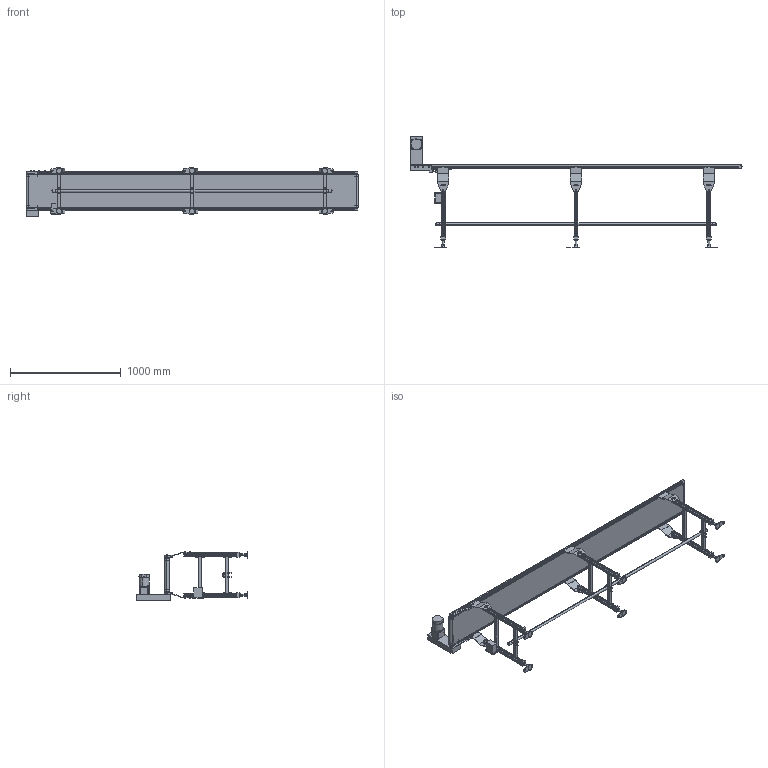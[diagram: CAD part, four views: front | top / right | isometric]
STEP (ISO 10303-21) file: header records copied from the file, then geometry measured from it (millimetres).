
FILE_DESCRIPTION( (''), '2;1');
FILE_NAME ('MB20-OD-306-300-300-R-K-100-O.stp','2025-01-29T15:42:43',(''),(''),'spGate 20.6.2 (****-****-****-****)','','');
FILE_SCHEMA (('AUTOMOTIVE_DESIGN'));
Length unit declared in the file: millimetre
Products named in the file (53): NewModel; TEMP_X_T-prt0; TEMP_X_T-prt1; TEMP_X_T-prt2; TEMP_X_T-prt3; TEMP_X_T-prt4; TEMP_X_T-prt5; TEMP_X_T-prt6; TEMP_X_T-prt7; TEMP_X_T-prt8; TEMP_X_T-prt9; TEMP_X_T-prt10; TEMP_X_T-prt11; TEMP_X_T-prt12; TEMP_X_T-prt13; TEMP_X_T-prt14; TEMP_X_T-prt15; TEMP_X_T-prt16; TEMP_X_T-prt17; TEMP_X_T-prt18; TEMP_X_T-prt19; TEMP_X_T-prt20; TEMP_X_T-prt21; TEMP_X_T-prt22; TEMP_X_T-prt23; TEMP_X_T-prt24; TEMP_X_T-prt25; TEMP_X_T-prt26; TEMP_X_T-prt27; TEMP_X_T-prt28; TEMP_X_T-prt29; TEMP_X_T-prt30; TEMP_X_T-prt31; TEMP_X_T-prt32; TEMP_X_T-prt33; TEMP_X_T-prt34; TEMP_X_T-prt35; TEMP_X_T-prt36; TEMP_X_T-prt37; TEMP_X_T-prt38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
Assembly tree (52 placements, depth 2):
  NewModel
    TEMP_X_T-prt0
    TEMP_X_T-prt1
    TEMP_X_T-prt2
    TEMP_X_T-prt3
    TEMP_X_T-prt4
    TEMP_X_T-prt5
    TEMP_X_T-prt6
    TEMP_X_T-prt7
    TEMP_X_T-prt8
    TEMP_X_T-prt9
    TEMP_X_T-prt10
    TEMP_X_T-prt11
    TEMP_X_T-prt12
    TEMP_X_T-prt13
    TEMP_X_T-prt14
    TEMP_X_T-prt15
    TEMP_X_T-prt16
    TEMP_X_T-prt17
    TEMP_X_T-prt18
    TEMP_X_T-prt19
    TEMP_X_T-prt20
    TEMP_X_T-prt21
    TEMP_X_T-prt22
    TEMP_X_T-prt23
    TEMP_X_T-prt24
    TEMP_X_T-prt25
    TEMP_X_T-prt26
    TEMP_X_T-prt27
    TEMP_X_T-prt28
    TEMP_X_T-prt29
    TEMP_X_T-prt30
    TEMP_X_T-prt31
    TEMP_X_T-prt32
    TEMP_X_T-prt33
    TEMP_X_T-prt34
    TEMP_X_T-prt35
    TEMP_X_T-prt36
    TEMP_X_T-prt37
    TEMP_X_T-prt38
    TEMP_X_T-prt39
    TEMP_X_T-prt40
    TEMP_X_T-prt41
    TEMP_X_T-prt42
    TEMP_X_T-prt43
    TEMP_X_T-prt44
    TEMP_X_T-prt45
    TEMP_X_T-prt46
    TEMP_X_T-prt47
    TEMP_X_T-prt48
    TEMP_X_T-prt49
    TEMP_X_T-prt50
    TEMP_X_T-prt51
Bounding box: 3001.5 x 1011.5 x 445.5 mm (x, y, z)
Volume: 16453991.5 mm3; surface area: 8541791.2 mm2
Topology: 52 solids, 52 shells, 2414 faces, 6067 edges, 3933 vertices
Faces by surface type: plane 1798, cylinder 523, bspline 93
Entity records: 123703 total; most frequent: CARTESIAN_POINT 15247, ORIENTED_EDGE 12126, DIRECTION 11653, COLOUR_RGB 8529, PRESENTATION_STYLE_ASSIGNMENT 8529, STYLED_ITEM 8529, EDGE_CURVE 6063, DRAUGHTING_PRE_DEFINED_CURVE_FONT 6063
